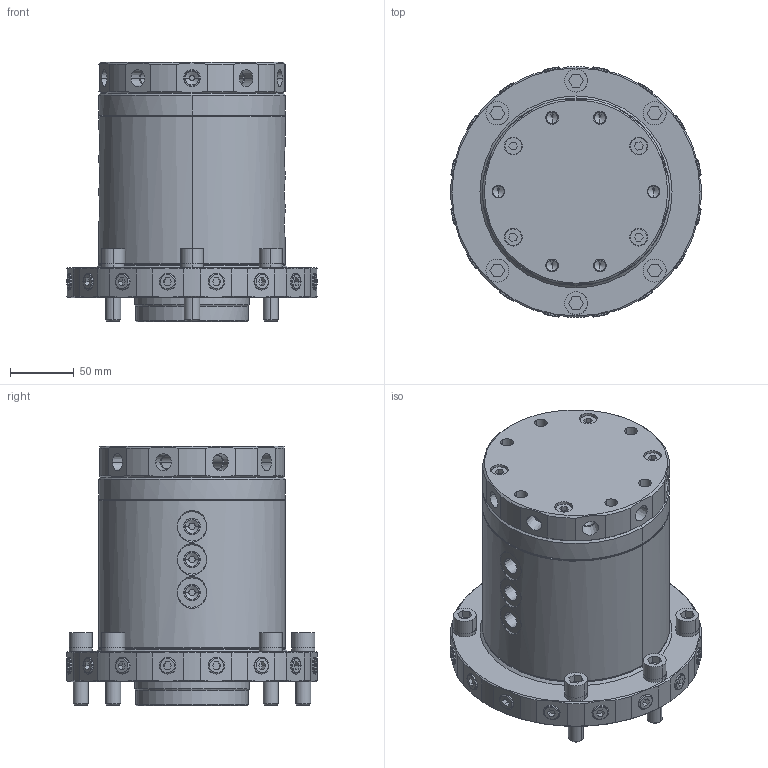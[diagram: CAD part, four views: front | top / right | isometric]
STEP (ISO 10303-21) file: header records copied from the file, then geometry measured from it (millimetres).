
FILE_DESCRIPTION((' '),'2;1');
FILE_NAME( 'TMD016-S-G.x_t.stp', '2024-09-03T08:17:45', (' '), ('--- Datakit www.datakit.com---'), ' Datakit CrossCadWare V2024.1 Dec 21 2023', 'Mastercam 2025', ' ');
FILE_SCHEMA(('AUTOMOTIVE_DESIGN { 1 0 10303 214 1 1 1 1 }'));
Length unit declared in the file: millimetre
Products named in the file (1): TMD016-S-G
Bounding box: 196.95 x 197 x 204 mm (x, y, z)
Volume: 3473342.9 mm3; surface area: 286575.7 mm2
Topology: 46 solids, 46 shells, 1365 faces, 3294 edges, 2113 vertices
Faces by surface type: cylinder 456, plane 429, cone 346, torus 134
Entity records: 43583 total; most frequent: CARTESIAN_POINT 9410, DIRECTION 7514, ORIENTED_EDGE 6496, EDGE_CURVE 3248, AXIS2_PLACEMENT_3D 3087, VERTEX_POINT 2113, CIRCLE 1697, EDGE_LOOP 1579
